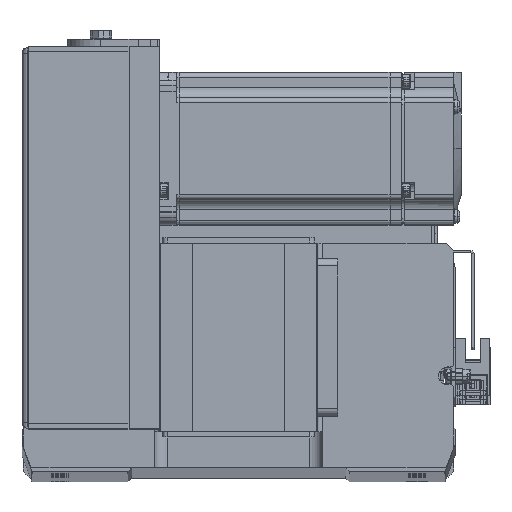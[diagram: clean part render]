
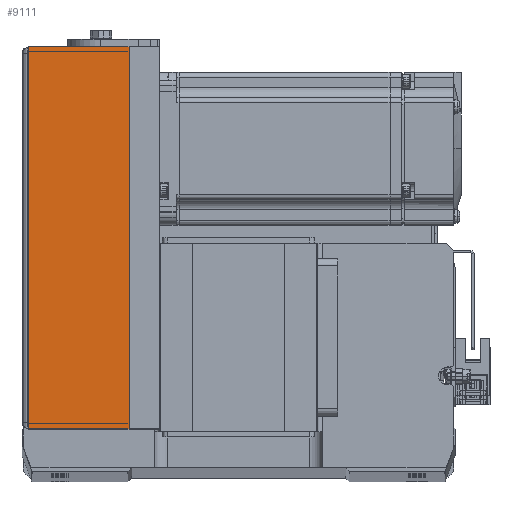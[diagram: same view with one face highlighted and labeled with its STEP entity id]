
A CAD part, top view. The second image highlights one B-rep face of the part: STEP entity #9111.
In plain terms, the highlighted planar face has unit normal (0, 0, 1) as drawn and (0, 1, 0) by its records, which use the part's own axes.
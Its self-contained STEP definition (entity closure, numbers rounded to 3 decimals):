
#5006 = VERTEX_POINT ( 'NONE', #14206 ) ;
#5419 = EDGE_LOOP ( 'NONE', ( #6874, #27445, #37460, #32417 ) ) ;
#5618 = VECTOR ( 'NONE', #13042, 1000. ) ;
#6292 = LINE ( 'NONE', #39022, #5618 ) ;
#6874 = ORIENTED_EDGE ( 'NONE', *, *, #30551, .F. ) ;
#7670 = PLANE ( 'NONE',  #16799 ) ;
#9111 = ADVANCED_FACE ( 'NONE', ( #13603 ), #7670, .F. ) ;
#11879 = VERTEX_POINT ( 'NONE', #27692 ) ;
#12360 = LINE ( 'NONE', #30737, #19511 ) ;
#13042 = DIRECTION ( 'NONE',  ( -1., 0., 0. ) ) ;
#13603 = FACE_OUTER_BOUND ( 'NONE', #5419, .T. ) ;
#14206 = CARTESIAN_POINT ( 'NONE',  ( 75., 36., 51.5 ) ) ;
#14700 = DIRECTION ( 'NONE',  ( -1., 0., 0. ) ) ;
#15029 = VECTOR ( 'NONE', #15200, 1000. ) ;
#15200 = DIRECTION ( 'NONE',  ( 0., 0., -1. ) ) ;
#16799 = AXIS2_PLACEMENT_3D ( 'NONE', #26847, #33228, #23670 ) ;
#18981 = CARTESIAN_POINT ( 'NONE',  ( -75., 36., 51.5 ) ) ;
#19007 = EDGE_CURVE ( 'NONE', #5006, #19585, #33785, .T. ) ;
#19511 = VECTOR ( 'NONE', #14700, 1000. ) ;
#19585 = VERTEX_POINT ( 'NONE', #35600 ) ;
#22350 = CARTESIAN_POINT ( 'NONE',  ( -75., 36., 12. ) ) ;
#23670 = DIRECTION ( 'NONE',  ( 0., 0., 1. ) ) ;
#26756 = CARTESIAN_POINT ( 'NONE',  ( 75., 36., 51.5 ) ) ;
#26847 = CARTESIAN_POINT ( 'NONE',  ( 0., 36., 52. ) ) ;
#27445 = ORIENTED_EDGE ( 'NONE', *, *, #19007, .T. ) ;
#27692 = CARTESIAN_POINT ( 'NONE',  ( -75., 36., 51.5 ) ) ;
#28054 = LINE ( 'NONE', #18981, #15029 ) ;
#30173 = DIRECTION ( 'NONE',  ( 0., 0., -1. ) ) ;
#30551 = EDGE_CURVE ( 'NONE', #5006, #11879, #6292, .T. ) ;
#30737 = CARTESIAN_POINT ( 'NONE',  ( 0., 36., 12. ) ) ;
#30753 = VECTOR ( 'NONE', #30173, 1000. ) ;
#32417 = ORIENTED_EDGE ( 'NONE', *, *, #41594, .F. ) ;
#33228 = DIRECTION ( 'NONE',  ( 0., -1., 0. ) ) ;
#33785 = LINE ( 'NONE', #26756, #30753 ) ;
#35600 = CARTESIAN_POINT ( 'NONE',  ( 75., 36., 12. ) ) ;
#36883 = VERTEX_POINT ( 'NONE', #22350 ) ;
#37460 = ORIENTED_EDGE ( 'NONE', *, *, #37665, .T. ) ;
#37665 = EDGE_CURVE ( 'NONE', #19585, #36883, #12360, .T. ) ;
#39022 = CARTESIAN_POINT ( 'NONE',  ( -75., 36., 51.5 ) ) ;
#41594 = EDGE_CURVE ( 'NONE', #11879, #36883, #28054, .T. ) ;
